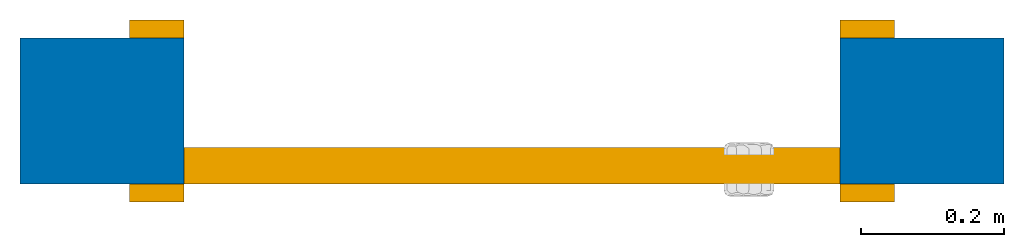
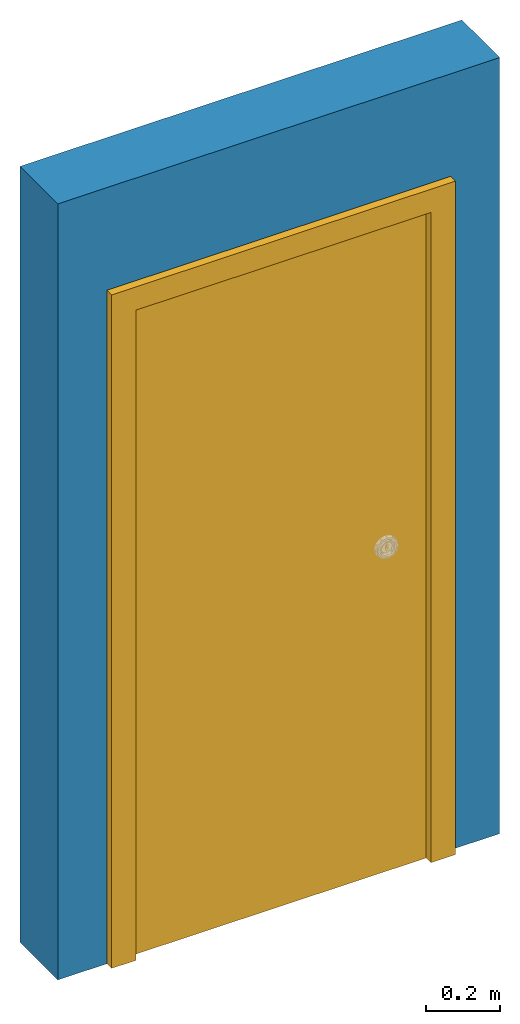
# One storey, incomplete: 1 door, 1 wall, 1 opening.
"""IFC2X3 building model written with IfcOpenShell, lengths in feet."""

from ifc_helpers import new_model, entity, si_unit, converted_unit, derived_unit, direction, frame, frame_2d, origin, place, context, subcontext, project, spatial, polyline, rectangle, outline, extrude, source, transform, mapped, material, material_list, layer, layer_set, layer_usage, type_object, type_shapes, element, fill, save


model = new_model("IFC2X3")

# Units and contexts
model_context = context("Model", 3, precision=0.0001, world=origin(), true_north=direction((6.12303176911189e-17, 1.0)))
body_context = subcontext(model_context, "Body", "Model", "MODEL_VIEW")
ifc_project = project(units=[converted_unit("LENGTHUNIT", "FOOT", entity("IfcRatioMeasure", 0.3048), si_unit("LENGTHUNIT", "METRE"), dimensions=[1, 0, 0, 0, 0, 0, 0]), converted_unit("AREAUNIT", "SQUARE FOOT", entity("IfcRatioMeasure", 0.09290304), si_unit("AREAUNIT", "SQUARE_METRE"), dimensions=[2, 0, 0, 0, 0, 0, 0]), converted_unit("VOLUMEUNIT", "CUBIC FOOT", entity("IfcRatioMeasure", 0.028316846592), si_unit("VOLUMEUNIT", "CUBIC_METRE"), dimensions=[3, 0, 0, 0, 0, 0, 0]), converted_unit("PLANEANGLEUNIT", "DEGREE", entity("IfcRatioMeasure", 0.0174532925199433), si_unit("PLANEANGLEUNIT", "RADIAN"), dimensions=[0, 0, 0, 0, 0, 0, 0]), si_unit("MASSUNIT", "GRAM", prefix="KILO"), derived_unit("MASSDENSITYUNIT", [(si_unit("MASSUNIT", "GRAM", prefix="KILO"), 1), (si_unit("LENGTHUNIT", "METRE"), -3)]), si_unit("TIMEUNIT", "SECOND"), si_unit("FREQUENCYUNIT", "HERTZ"), si_unit("THERMODYNAMICTEMPERATUREUNIT", "DEGREE_CELSIUS"), derived_unit("THERMALTRANSMITTANCEUNIT", [(si_unit("MASSUNIT", "GRAM", prefix="KILO"), 1), (si_unit("THERMODYNAMICTEMPERATUREUNIT", "KELVIN"), -1), (si_unit("TIMEUNIT", "SECOND"), -3)]), derived_unit("VOLUMETRICFLOWRATEUNIT", [(si_unit("LENGTHUNIT", "METRE"), 3), (si_unit("TIMEUNIT", "SECOND"), -1)]), si_unit("ELECTRICCURRENTUNIT", "AMPERE"), si_unit("ELECTRICVOLTAGEUNIT", "VOLT"), si_unit("POWERUNIT", "WATT"), si_unit("FORCEUNIT", "NEWTON"), si_unit("ILLUMINANCEUNIT", "LUX"), si_unit("LUMINOUSFLUXUNIT", "LUMEN"), si_unit("LUMINOUSINTENSITYUNIT", "CANDELA"), derived_unit("USERDEFINED", [(si_unit("MASSUNIT", "GRAM", prefix="KILO"), -1), (si_unit("LENGTHUNIT", "METRE"), -2), (si_unit("TIMEUNIT", "SECOND"), 3), (si_unit("LUMINOUSFLUXUNIT", "LUMEN"), 1)]), derived_unit("LINEARVELOCITYUNIT", [(si_unit("LENGTHUNIT", "METRE"), 1), (si_unit("TIMEUNIT", "SECOND"), -1)]), si_unit("PRESSUREUNIT", "PASCAL"), derived_unit("USERDEFINED", [(si_unit("LENGTHUNIT", "METRE"), -2), (si_unit("MASSUNIT", "GRAM", prefix="KILO"), 1), (si_unit("TIMEUNIT", "SECOND"), -2)])], contexts=[model_context])

# Site, building, storey
site_placement = place(None, origin())
site = spatial("IfcSite", under=ifc_project, at=site_placement, Name="Default", CompositionType="ELEMENT")
building_placement = place(site_placement, origin())
building = spatial("IfcBuilding", under=site, at=building_placement, CompositionType="ELEMENT")
storey_placement = place(building_placement, origin())
storey = spatial("IfcBuildingStorey", under=building, at=storey_placement, Name="Level 1", CompositionType="ELEMENT", Elevation=0.0)

# Wall, opening, door
ifc_material_1 = material(Name="Default Wall")
ifc_layer = layer(ifc_material_1, 0.666666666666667)
ifc_layer_set = layer_set([ifc_layer], Name="Basic Wall:Generic - 8\"")
ifc_layer_usage = layer_usage(ifc_layer_set, "AXIS2", "NEGATIVE", 0.333333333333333)
wall_type = type_object("IfcWallType", Name="Basic Wall:Generic - 8\"", PredefinedType="STANDARD", material=ifc_layer_set)
wall_placement = place(storey_placement, frame((-6.48016187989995, 5.55996263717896, 0.0)))
wall = element("IfcWallStandardCase", 1, at=wall_placement, inside=storey, type_object=wall_type, material=ifc_layer_usage, Name="Basic Wall:Generic - 8\"", ObjectType="Basic Wall:Generic - 8\"", context=body_context, shape_type="SweptSolid", body=[
    extrude(rectangle(XDim=4.5, YDim=0.666666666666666, at=frame_2d((2.25, -3.33066907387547e-16), x_axis=(-1.0, 0.0))), origin(), (0.0, 0.0, 1.0), 8.35485332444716),
])
opening_placement = place(wall_placement, frame((3.75, 0.333333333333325, 0.0)))
opening = element("IfcOpeningElement", 2, at=opening_placement, cuts=wall, Name="Single-Flush:36\" x 84\":1", ObjectType="Opening", context=body_context, shape_type="SweptSolid", body=[
    extrude(rectangle(XDim=3.0, YDim=7.0, at=frame_2d((3.5, 1.5), x_axis=(0.0, 1.0))), frame((0.0, 0.0, 0.0), z_axis=(0.0, -1.0, 0.0), x_axis=(0.0, 0.0, 1.0)), (0.0, 0.0, 1.0), 0.666666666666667),
])
ifc_material_2 = material(Name="Door - Frame")
ifc_material_3 = material(Name="Door - Panel")
ifc_material_list_1 = material_list([ifc_material_2, ifc_material_3])
ifc_material_list_2 = material_list([ifc_material_2, ifc_material_3])
door_style = type_object("IfcDoorStyle", Name="36\" x 84\"", ConstructionType="NOTDEFINED", OperationType="SINGLE_SWING_RIGHT", ParameterTakesPrecedence=False, Sizeable=False, material=ifc_material_list_2)
shared_shape = source(origin(), body_context, "Body", "SweptSolid", [
    extrude(outline(polyline([(-1.75, -3.6875), (1.75, -3.6875), (1.75, 3.5625), (1.5, 3.5625), (1.5, -3.43750000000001), (-1.5, -3.43750000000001), (-1.5, 3.5625), (-1.75, 3.5625), (-1.75, -3.6875)])), frame((1.5, 0.666666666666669, 3.5625), z_axis=(0.0, 1.0, 0.0), x_axis=(1.0, 0.0, 0.0)), (0.0, 0.0, 1.0), 0.0833333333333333),
    extrude(outline(polyline([(-3.6875, -1.74999999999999), (3.5625, -1.74999999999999), (3.5625, -1.50000000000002), (-3.4375, -1.50000000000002), (-3.4375, 1.50000000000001), (3.5625, 1.50000000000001), (3.5625, 1.75000000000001), (-3.6875, 1.75000000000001), (-3.6875, -1.74999999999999)])), frame((1.50000000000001, -0.0833333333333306, 3.5625), z_axis=(0.0, 1.0, 0.0), x_axis=(0.0, 0.0, -1.0)), (0.0, 0.0, 1.0), 0.0833333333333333),
    extrude(rectangle(XDim=0.166666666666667, YDim=3.0, at=frame_2d((-1.38777878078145e-17, 0.0), x_axis=(1.0, 0.0))), frame((1.5, 0.583333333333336, 0.0), z_axis=(0.0, 0.0, 1.0), x_axis=(0.0, 1.0, 0.0)), (0.0, 0.0, 1.0), 7.0),
])
type_shapes(door_style, [shared_shape])
door_placement = place(opening_placement, frame((0.0, 0.0, 0.0), z_axis=(0.0, 0.0, 1.0), x_axis=(-1.0, 0.0, 0.0)))
door = element("IfcDoor", 3, at=door_placement, inside=storey, type_object=door_style, material=ifc_material_list_1, Name="Single-Flush:36\" x 84\"", ObjectType="Single-Flush:36\" x 84\"", OverallHeight=7.0, OverallWidth=3.0, context=body_context, shape_type="MappedRepresentation", body=[
    mapped(shared_shape, transform((0.0, 0.0, 0.0), scale=1.0)),
])
fill(opening, door)

save(model, "model.ifc")
